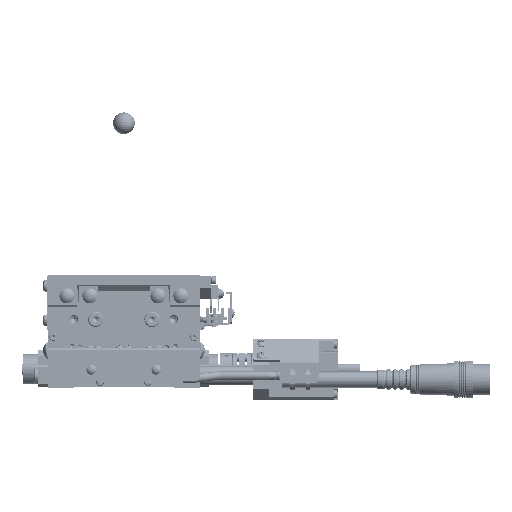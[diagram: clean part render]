
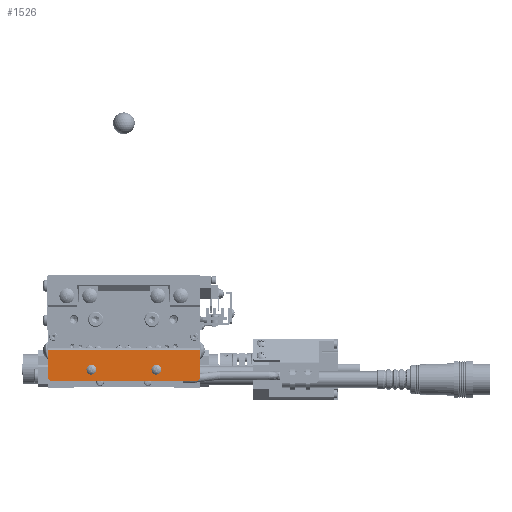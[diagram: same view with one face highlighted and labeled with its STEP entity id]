
A CAD part, front view. The second image highlights one B-rep face of the part: STEP entity #1526.
In plain terms, the highlighted planar face has unit normal (0, -1, 0).
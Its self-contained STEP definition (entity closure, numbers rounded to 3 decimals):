
#1526=ADVANCED_FACE('',(#17045,#17046,#17047),#17044,.T.);
#17044=PLANE('',#72489);
#17045=FACE_OUTER_BOUND('',#72490,.T.);
#17046=FACE_BOUND('',#72491,.T.);
#17047=FACE_BOUND('',#72492,.T.);
#72486=CARTESIAN_POINT('',(-42.,-50.,18.65));
#72487=DIRECTION('',(0.,-1.,0.));
#72488=DIRECTION('',(0.,0.,-1.));
#72489=AXIS2_PLACEMENT_3D('',#72486,#72487,#72488);
#72490=EDGE_LOOP('',(#109021,#109022,#109023,#109024,#109025,#109026));
#72491=EDGE_LOOP('',(#109027,#109028,#109029));
#72492=EDGE_LOOP('',(#109030,#109031,#109032));
#109021=ORIENTED_EDGE('',*,*,#137028,.F.);
#109022=ORIENTED_EDGE('',*,*,#137004,.T.);
#109023=ORIENTED_EDGE('',*,*,#137029,.T.);
#109024=ORIENTED_EDGE('',*,*,#137007,.T.);
#109025=ORIENTED_EDGE('',*,*,#137016,.T.);
#109026=ORIENTED_EDGE('',*,*,#137011,.T.);
#109027=ORIENTED_EDGE('',*,*,#137030,.F.);
#109028=ORIENTED_EDGE('',*,*,#137031,.F.);
#109029=ORIENTED_EDGE('',*,*,#137032,.F.);
#109030=ORIENTED_EDGE('',*,*,#137033,.F.);
#109031=ORIENTED_EDGE('',*,*,#137034,.F.);
#109032=ORIENTED_EDGE('',*,*,#137035,.F.);
#137004=EDGE_CURVE('',#170112,#170104,#170113,.T.);
#137007=EDGE_CURVE('',#170132,#170133,#170134,.T.);
#137011=EDGE_CURVE('',#170160,#170161,#170162,.T.);
#137016=EDGE_CURVE('',#170133,#170160,#170194,.T.);
#137028=EDGE_CURVE('',#170112,#170161,#170272,.T.);
#137029=EDGE_CURVE('',#170104,#170132,#170278,.T.);
#137030=EDGE_CURVE('',#170284,#170285,#170286,.T.);
#137031=EDGE_CURVE('',#170292,#170284,#170293,.T.);
#137032=EDGE_CURVE('',#170285,#170292,#170299,.T.);
#137033=EDGE_CURVE('',#170305,#170306,#170307,.T.);
#137034=EDGE_CURVE('',#170313,#170305,#170314,.T.);
#137035=EDGE_CURVE('',#170306,#170313,#170320,.T.);
#170104=VERTEX_POINT('',#262151);
#170112=VERTEX_POINT('',#262157);
#170113=LINE('',#262158,#262159);
#170132=VERTEX_POINT('',#262169);
#170133=VERTEX_POINT('',#262170);
#170134=LINE('',#262171,#262172);
#170160=VERTEX_POINT('',#262185);
#170161=VERTEX_POINT('',#262186);
#170162=LINE('',#262187,#262188);
#170194=LINE('',#262204,#262205);
#170272=LINE('',#262246,#262247);
#170278=LINE('',#262249,#262250);
#170284=VERTEX_POINT('',#262252);
#170285=VERTEX_POINT('',#262253);
#170286=CIRCLE('',#262257,2.25);
#170292=VERTEX_POINT('',#262258);
#170293=CIRCLE('',#262262,2.25);
#170299=CIRCLE('',#262266,2.25);
#170305=VERTEX_POINT('',#262267);
#170306=VERTEX_POINT('',#262268);
#170307=CIRCLE('',#262272,2.25);
#170313=VERTEX_POINT('',#262273);
#170314=CIRCLE('',#262277,2.25);
#170320=CIRCLE('',#262281,2.25);
#262151=CARTESIAN_POINT('',(-35.,-50.,17.25));
#262157=CARTESIAN_POINT('',(35.,-50.,17.25));
#262158=CARTESIAN_POINT('',(35.,-50.,17.25));
#262159=VECTOR('',#262160,70.);
#262160=DIRECTION('',(-1.,0.,0.));
#262169=CARTESIAN_POINT('',(-35.,-50.,4.25));
#262170=CARTESIAN_POINT('',(-34.,-50.,3.25));
#262171=CARTESIAN_POINT('',(-35.,-50.,4.25));
#262172=VECTOR('',#262173,1.414);
#262173=DIRECTION('',(0.707,0.,-0.707));
#262185=CARTESIAN_POINT('',(34.,-50.,3.25));
#262186=CARTESIAN_POINT('',(35.,-50.,4.25));
#262187=CARTESIAN_POINT('',(34.,-50.,3.25));
#262188=VECTOR('',#262189,1.414);
#262189=DIRECTION('',(0.707,0.,0.707));
#262204=CARTESIAN_POINT('',(-34.,-50.,3.25));
#262205=VECTOR('',#262206,68.);
#262206=DIRECTION('',(1.,0.,0.));
#262246=CARTESIAN_POINT('',(35.,-50.,17.25));
#262247=VECTOR('',#262248,13.);
#262248=DIRECTION('',(0.,0.,-1.));
#262249=CARTESIAN_POINT('',(-35.,-50.,17.25));
#262250=VECTOR('',#262251,13.);
#262251=DIRECTION('',(0.,0.,-1.));
#262252=CARTESIAN_POINT('',(-17.25,-50.,8.25));
#262253=CARTESIAN_POINT('',(-15.,-50.,6.));
#262254=CARTESIAN_POINT('',(-15.,-50.,8.25));
#262255=DIRECTION('',(0.,-1.,0.));
#262256=DIRECTION('',(0.,0.,-1.));
#262257=AXIS2_PLACEMENT_3D('',#262254,#262255,#262256);
#262258=CARTESIAN_POINT('',(-12.75,-50.,8.25));
#262259=CARTESIAN_POINT('',(-15.,-50.,8.25));
#262260=DIRECTION('',(0.,-1.,0.));
#262261=DIRECTION('',(0.,0.,-1.));
#262262=AXIS2_PLACEMENT_3D('',#262259,#262260,#262261);
#262263=CARTESIAN_POINT('',(-15.,-50.,8.25));
#262264=DIRECTION('',(0.,-1.,0.));
#262265=DIRECTION('',(0.,0.,-1.));
#262266=AXIS2_PLACEMENT_3D('',#262263,#262264,#262265);
#262267=CARTESIAN_POINT('',(12.75,-50.,8.25));
#262268=CARTESIAN_POINT('',(15.,-50.,6.));
#262269=CARTESIAN_POINT('',(15.,-50.,8.25));
#262270=DIRECTION('',(0.,-1.,0.));
#262271=DIRECTION('',(0.,0.,-1.));
#262272=AXIS2_PLACEMENT_3D('',#262269,#262270,#262271);
#262273=CARTESIAN_POINT('',(17.25,-50.,8.25));
#262274=CARTESIAN_POINT('',(15.,-50.,8.25));
#262275=DIRECTION('',(0.,-1.,0.));
#262276=DIRECTION('',(0.,0.,-1.));
#262277=AXIS2_PLACEMENT_3D('',#262274,#262275,#262276);
#262278=CARTESIAN_POINT('',(15.,-50.,8.25));
#262279=DIRECTION('',(0.,-1.,0.));
#262280=DIRECTION('',(0.,0.,-1.));
#262281=AXIS2_PLACEMENT_3D('',#262278,#262279,#262280);
